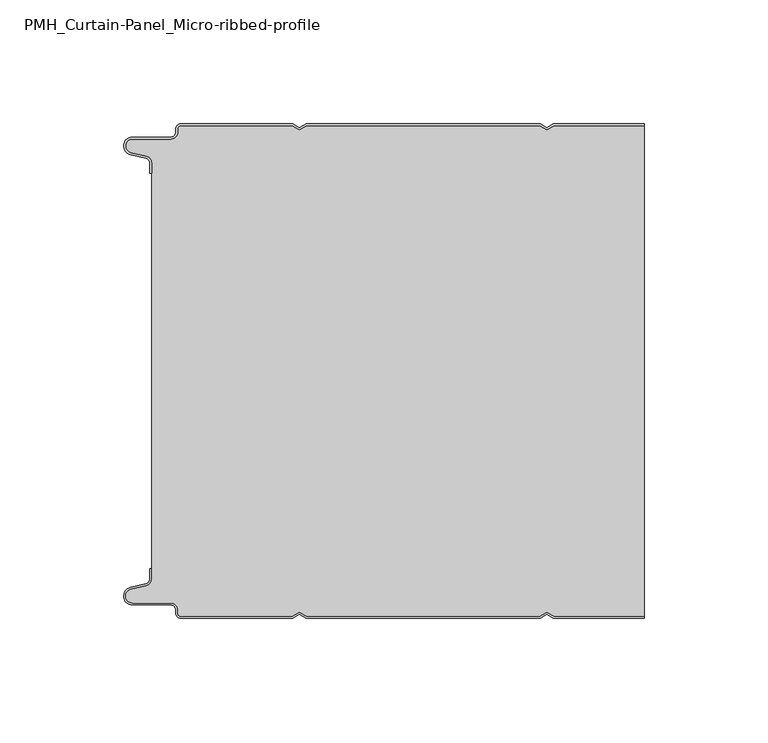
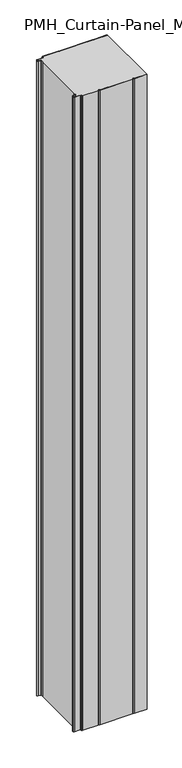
"""IFC4 building model written with IfcOpenShell, lengths in millimetres: plate geometry, PMH_Curtain-Panel_Micro-ribbed-profile : ACH_PMH_Stone-wool-Panel_200M."""

from ifc_helpers import new_model, si_unit, point, frame_2d, origin, origin_with_axes, place, context, project, spatial, polyline, circle_curve, trimmed, segment, composite_curve, outline, extrude, source, transform, mapped, element, save


def pmh_curtain_panel_micro_ribbed_profile_aedbf398(model_context):
    return source(origin(), model_context, "Body", "SweptSolid", [
        extrude(outline(composite_curve([segment(trimmed(circle_curve(frame_2d((-102.0119739, -15.878557)), 2.0), [point((-100.0119739, -15.878557))], [point((-101.5620718, -13.9298169))], True, "CARTESIAN"), True, "CONTINUOUS"), segment(polyline([(-101.5620718, -13.9298169), (-107.7217978, -12.507732)]), True, "CONTINUOUS"), segment(trimmed(circle_curve(frame_2d((-106.9119739, -9.0)), 3.6), [point((-107.7217978, -12.507732))], [point((-106.9119739, -5.4))], False, "CARTESIAN"), True, "CONTINUOUS"), segment(polyline([(-106.9119739, -5.4), (-91.4119739, -5.4)]), True, "CONTINUOUS"), segment(trimmed(circle_curve(frame_2d((-91.4119739, -3.4)), 2.0), [point((-91.4119739, -5.4))], [point((-89.4119739, -3.4))], True, "CARTESIAN"), True, "CONTINUOUS"), segment(polyline([(-89.4119739, -3.4), (-89.4119739, -2.0)]), True, "CONTINUOUS"), segment(trimmed(circle_curve(frame_2d((-87.4119739, -2.0)), 2.0), [point((-89.4119739, -2.0))], [point((-87.4119739, 0.0))], False, "CARTESIAN"), True, "CONTINUOUS"), segment(polyline([(-87.4119739, 0.0), (-42.1119734, 0.0), (-39.4119739, -1.5588455), (-36.7119745, 0.0), (57.8880266, 0.0), (60.5880261, -1.5588455), (63.2880255, 0.0), (100.0119739, 0.0), (100.0119739, -0.8), (63.5023849, -0.8), (60.5880261, -2.482606), (57.6736672, -0.8), (-36.4976151, -0.8), (-39.4119739, -2.482606), (-42.3263328, -0.8), (-87.4119739, -0.8)]), True, "CONTINUOUS"), segment(trimmed(circle_curve(frame_2d((-87.4119739, -2.0)), 1.2), [point((-87.4119739, -0.8))], [point((-88.6119739, -2.0))], True, "CARTESIAN"), True, "CONTINUOUS"), segment(polyline([(-88.6119739, -2.0), (-88.6119739, -3.4)]), True, "CONTINUOUS"), segment(trimmed(circle_curve(frame_2d((-91.4119739, -3.4)), 2.8), [point((-88.6119739, -3.4))], [point((-91.4119739, -6.2))], False, "CARTESIAN"), True, "CONTINUOUS"), segment(polyline([(-91.4119739, -6.2), (-106.9119739, -6.2)]), True, "CONTINUOUS"), segment(trimmed(circle_curve(frame_2d((-106.9119739, -9.0)), 2.8), [point((-106.9119739, -6.2))], [point((-107.541837, -11.7282362))], True, "CARTESIAN"), True, "CONTINUOUS"), segment(polyline([(-107.541837, -11.7282362), (-101.3821109, -13.150321)]), True, "CONTINUOUS"), segment(trimmed(circle_curve(frame_2d((-102.0119739, -15.878557)), 2.8), [point((-101.3821109, -13.150321))], [point((-99.2119739, -15.878557))], False, "CARTESIAN"), True, "CONTINUOUS"), segment(polyline([(-99.2119739, -15.878557), (-99.2119739, -20.0), (-100.0119739, -20.0), (-100.0119739, -15.878557)]), True, "CONTINUOUS")], self_intersect=False)), origin_with_axes(), (0.0, 0.0, 1.0), 1945.7507136),
        extrude(outline(composite_curve([segment(polyline([(-99.2119739, -184.1214426), (-99.2119739, -15.8785573)]), True, "CONTINUOUS"), segment(trimmed(circle_curve(frame_2d((-102.0119739, -15.8785573)), 2.8), [point((-99.2119739, -15.8785573))], [point((-101.3821109, -13.1503212))], True, "CARTESIAN"), True, "CONTINUOUS"), segment(polyline([(-101.3821109, -13.1503212), (-107.541837, -11.7282362)]), True, "CONTINUOUS"), segment(trimmed(circle_curve(frame_2d((-106.911974, -9.0)), 2.8), [point((-107.541837, -11.7282362))], [point((-106.911974, -6.2))], False, "CARTESIAN"), True, "CONTINUOUS"), segment(polyline([(-106.911974, -6.2), (-91.411974, -6.2)]), True, "CONTINUOUS"), segment(trimmed(circle_curve(frame_2d((-91.411974, -3.4)), 2.8), [point((-91.411974, -6.2))], [point((-88.611974, -3.4))], True, "CARTESIAN"), True, "CONTINUOUS"), segment(polyline([(-88.611974, -3.4), (-88.611974, -2.0)]), True, "CONTINUOUS"), segment(trimmed(circle_curve(frame_2d((-87.411974, -2.0)), 1.2), [point((-88.611974, -2.0))], [point((-87.411974, -0.8))], False, "CARTESIAN"), True, "CONTINUOUS"), segment(polyline([(-87.411974, -0.8), (-42.3263329, -0.8), (-39.411974, -2.482606), (-36.4976152, -0.8), (57.6736671, -0.8), (60.588026, -2.482606), (63.5023848, -0.8), (100.0119739, -0.8), (100.0119739, -199.2), (63.5023848, -199.2), (60.588026, -197.517394), (57.6736671, -199.2), (-36.4976152, -199.2), (-39.411974, -197.517394), (-42.3263329, -199.2), (-87.411974, -199.2)]), True, "CONTINUOUS"), segment(trimmed(circle_curve(frame_2d((-87.411974, -198.0)), 1.2), [point((-87.411974, -199.2))], [point((-88.611974, -198.0))], False, "CARTESIAN"), True, "CONTINUOUS"), segment(polyline([(-88.611974, -198.0), (-88.611974, -196.6)]), True, "CONTINUOUS"), segment(trimmed(circle_curve(frame_2d((-91.411974, -196.6)), 2.8), [point((-88.611974, -196.6))], [point((-91.411974, -193.8))], True, "CARTESIAN"), True, "CONTINUOUS"), segment(polyline([(-91.411974, -193.8), (-106.911974, -193.8)]), True, "CONTINUOUS"), segment(trimmed(circle_curve(frame_2d((-106.911974, -191.0)), 2.8), [point((-106.911974, -193.8))], [point((-107.541837, -188.2717638))], False, "CARTESIAN"), True, "CONTINUOUS"), segment(polyline([(-107.541837, -188.2717638), (-101.3821109, -186.8496788)]), True, "CONTINUOUS"), segment(trimmed(circle_curve(frame_2d((-102.0119739, -184.1214426)), 2.8), [point((-101.3821109, -186.8496788))], [point((-99.2119739, -184.1214426))], True, "CARTESIAN"), True, "CONTINUOUS")], self_intersect=False)), origin_with_axes(), (0.0, 0.0, 1.0), 1945.7507136),
        extrude(outline(composite_curve([segment(polyline([(-100.0119739, -184.121443), (-100.0119739, -180.0), (-99.2119739, -180.0), (-99.2119739, -184.121443)]), True, "CONTINUOUS"), segment(trimmed(circle_curve(frame_2d((-102.0119739, -184.121443)), 2.8), [point((-99.2119739, -184.121443))], [point((-101.3821109, -186.8496792))], False, "CARTESIAN"), True, "CONTINUOUS"), segment(polyline([(-101.3821109, -186.8496792), (-107.5418369, -188.271764)]), True, "CONTINUOUS"), segment(trimmed(circle_curve(frame_2d((-106.9119739, -191.0)), 2.8), [point((-107.5418369, -188.271764))], [point((-106.9119739, -193.8))], True, "CARTESIAN"), True, "CONTINUOUS"), segment(polyline([(-106.9119739, -193.8), (-91.4119739, -193.8)]), True, "CONTINUOUS"), segment(trimmed(circle_curve(frame_2d((-91.4119739, -196.6)), 2.8), [point((-91.4119739, -193.8))], [point((-88.6119739, -196.6))], False, "CARTESIAN"), True, "CONTINUOUS"), segment(polyline([(-88.6119739, -196.6), (-88.6119739, -198.0)]), True, "CONTINUOUS"), segment(trimmed(circle_curve(frame_2d((-87.4119739, -198.0)), 1.2), [point((-88.6119739, -198.0))], [point((-87.4119739, -199.2))], True, "CARTESIAN"), True, "CONTINUOUS"), segment(polyline([(-87.4119739, -199.2), (-42.3263328, -199.2), (-39.4119739, -197.517394), (-36.4976151, -199.2), (57.6736672, -199.2), (60.5880261, -197.517394), (63.5023849, -199.2), (100.0119739, -199.2), (100.0119739, -200.0), (63.2880255, -200.0), (60.5880261, -198.4411545), (57.8880266, -200.0), (-36.7119745, -200.0), (-39.4119739, -198.4411545), (-42.1119734, -200.0), (-87.4119739, -200.0)]), True, "CONTINUOUS"), segment(trimmed(circle_curve(frame_2d((-87.4119739, -198.0)), 2.0), [point((-87.4119739, -200.0))], [point((-89.4119739, -198.0))], False, "CARTESIAN"), True, "CONTINUOUS"), segment(polyline([(-89.4119739, -198.0), (-89.4119739, -196.6)]), True, "CONTINUOUS"), segment(trimmed(circle_curve(frame_2d((-91.4119739, -196.6)), 2.0), [point((-89.4119739, -196.6))], [point((-91.4119739, -194.6))], True, "CARTESIAN"), True, "CONTINUOUS"), segment(polyline([(-91.4119739, -194.6), (-106.9119739, -194.6)]), True, "CONTINUOUS"), segment(trimmed(circle_curve(frame_2d((-106.9119739, -191.0)), 3.6), [point((-106.9119739, -194.6))], [point((-107.7217979, -187.4922678))], False, "CARTESIAN"), True, "CONTINUOUS"), segment(polyline([(-107.7217979, -187.4922678), (-101.5620718, -186.070183)]), True, "CONTINUOUS"), segment(trimmed(circle_curve(frame_2d((-102.0119739, -184.121443)), 2.0), [point((-101.5620718, -186.070183))], [point((-100.0119739, -184.121443))], True, "CARTESIAN"), True, "CONTINUOUS")], self_intersect=False)), origin_with_axes(), (0.0, 0.0, 1.0), 1945.7507136),
    ])


if __name__ == "__main__":
    model = new_model("IFC4")
    model_context = context("Model", 3, world=origin())
    ifc_project = project(units=[si_unit("LENGTHUNIT", "METRE", prefix="MILLI")], contexts=[model_context])
    site = spatial("IfcSite", under=ifc_project)
    building = spatial("IfcBuilding", under=site)
    placement = place(None, origin())
    pmh_curtain_panel_micro_ribbed_profile_shape = pmh_curtain_panel_micro_ribbed_profile_aedbf398(model_context)
    element("IfcPlate", 1, ObjectType="PMH_Curtain-Panel_Micro-ribbed-profile : ACH_PMH_Stone-wool-Panel_200M", at=placement, inside=building, context=model_context, shape_type="MappedRepresentation", body=[
        mapped(pmh_curtain_panel_micro_ribbed_profile_shape, transform((0.0, 0.0, 0.0), x_axis=(1.0, 0.0, 0.0), y_axis=(0.0, 1.0, 0.0), z_axis=(0.0, 0.0, 1.0))),
    ])
    save(model, "model.ifc")
